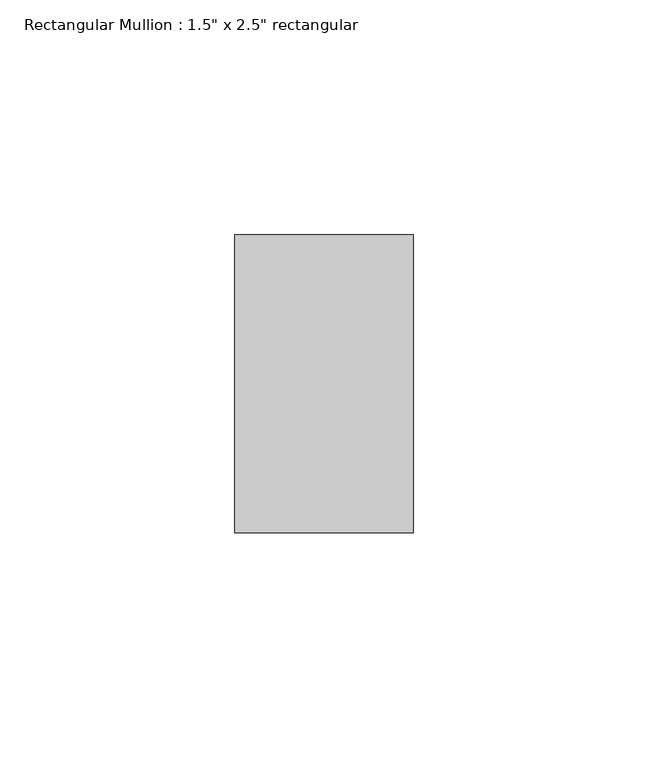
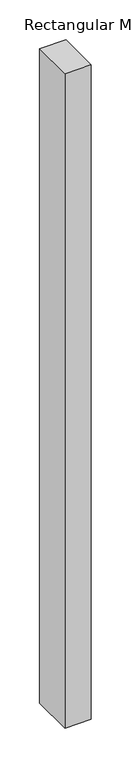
"""IFC4 building model written with IfcOpenShell, lengths in millimetres: member geometry."""

from ifc_helpers import new_model, si_unit, frame, origin, place, context, project, spatial, polyline, outline, extrude, source, transform, mapped, element, save


def member_a82acab6(model_context):
    return source(origin(), model_context, "Body", "SweptSolid", [
        extrude(outline(polyline([(0.0, 31.75), (0.0, -31.75), (-38.1, -31.75), (-38.1, 31.75), (0.0, 31.75)])), frame((0.0, 0.0, -1003.3), z_axis=(0.0, 0.0, 1.0), x_axis=(1.0, 0.0, 0.0)), (0.0, 0.0, 1.0), 1003.3),
    ])


if __name__ == "__main__":
    model = new_model("IFC4")
    model_context = context("Model", 3, world=origin())
    ifc_project = project(units=[si_unit("LENGTHUNIT", "METRE", prefix="MILLI")], contexts=[model_context])
    site = spatial("IfcSite", under=ifc_project)
    building = spatial("IfcBuilding", under=site)
    placement = place(None, origin())
    member_shape = member_a82acab6(model_context)
    element("IfcMember", 1, ObjectType="Rectangular Mullion : 1.5\" x 2.5\" rectangular", at=placement, inside=building, context=model_context, shape_type="MappedRepresentation", body=[
        mapped(member_shape, transform((0.0, 0.0, 0.0), x_axis=(1.0, 0.0, 0.0), y_axis=(0.0, 1.0, 0.0), z_axis=(0.0, 0.0, 1.0))),
    ])
    save(model, "model.ifc")
